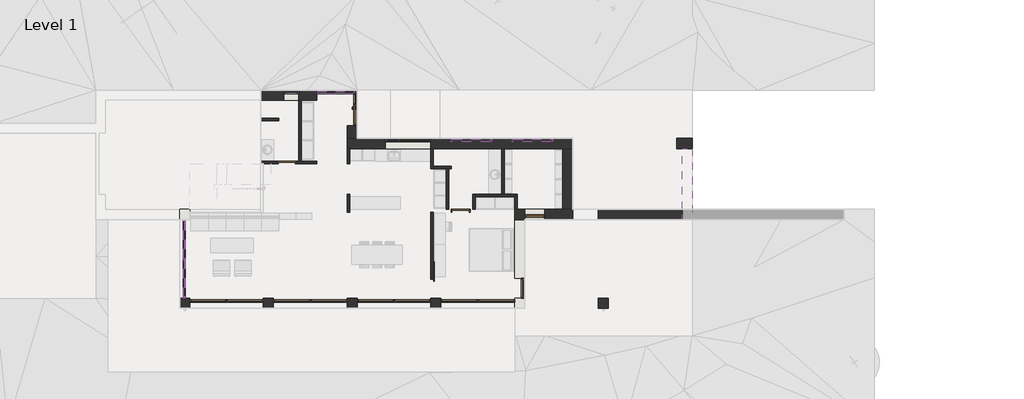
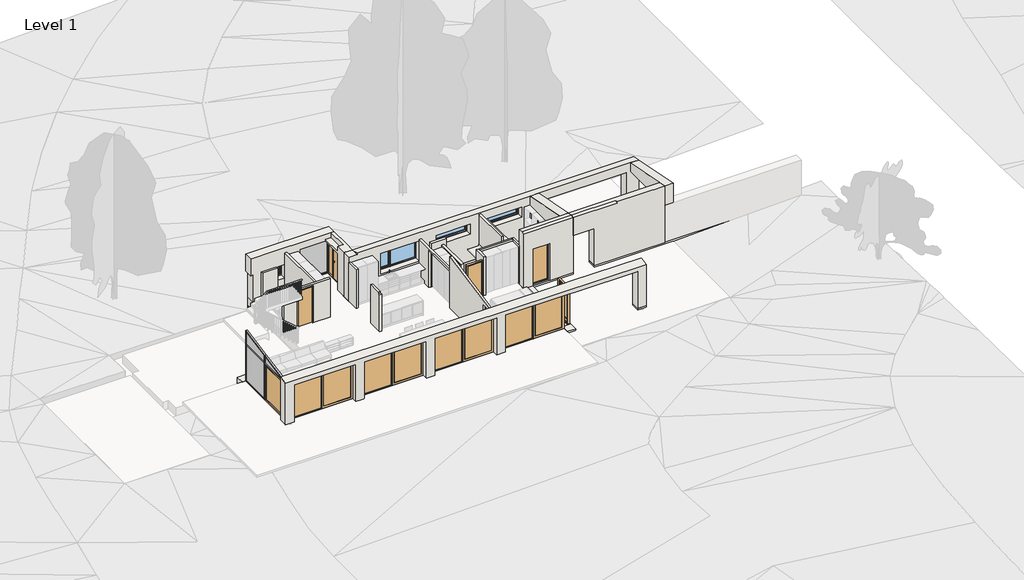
# One storey, part 1 of 3: 31 walls, 15 members, 11 doors, 4 plates, 4 windows.
"""IFC4 building model written with IfcOpenShell, lengths in millimetres."""

from ifc_helpers import new_model, si_unit, frame, origin, origin_with_axes, place, context, project, spatial, polyline, outline, extrude, faceted_brep, transform, mapped, element, save
from components import door_1522x2200_mm_245956a5, cw_ext_sliding_door_glass_cw_ext_sliding_door_glass_9f4413b3, ext_single_flush_960x2200_mm_918893a4, ext_single_flush_out_glass_960x2200_mm_15830432, ext_sliding_door_window_assembly_glass_3480_x_2200_mm_951d785b, int_single_flush_900x2200_mm_58b118df, int_single_flush_900x2200_mm_8e8544e1, int_sliding_door_on_wall_m_09x22_47a3ad10, quad_corner_mullion_exterior_115mm_0678458d, rectangular_mullion_exterior_50x100mm_229f60ba, rectangular_mullion_exterior_50x100mm_3ea8714e, rectangular_mullion_exterior_50x100mm_05d3077b, rectangular_mullion_exterior_50x100mm_196fb89d, rectangular_mullion_exterior_50x100mm_bd403bb5, rectangular_mullion_exterior_50x100mm_be0badd6, rectangular_mullion_exterior_50x100mm_2bde0a3b, rectangular_mullion_exterior_50x100mm_298fbafc, rectangular_mullion_exterior_50x100mm_1d47d4e6, rectangular_mullion_exterior_50x115mm_ee095215, rectangular_mullion_exterior_50x115mm_8ba670b4, system_panel_exterior_glass_22mm_7220da71, system_panel_exterior_glass_22mm_728c9ee8, system_panel_exterior_glass_22mm_b5bca9db, system_panel_exterior_glass_22mm_8744a841, single_light_720x800_mm_5dac0888, single_light_top_hung_1920x600_mm_50622a2d, window_assembly_individual_2160x1200_mm_64654f8e

model = new_model("IFC4")

# Units and contexts
model_context = context("Model", 3, world=origin())
ifc_project = project(units=[si_unit("LENGTHUNIT", "METRE", prefix="MILLI")], contexts=[model_context])

# Site, building, storey
site = spatial("IfcSite", under=ifc_project)
building = spatial("IfcBuilding", under=site)
storey = spatial("IfcBuildingStorey", under=building, Name="Level 1", Elevation=0.0)

# Doors
placement = place(None, origin())
door_1522x2200_mm_shape = door_1522x2200_mm_245956a5(model_context)
element("IfcDoor", 1, ObjectType="Ext. Door inw. Window Assembly : 1522x2200 mm", at=placement, inside=storey, context=model_context, shape_type="MappedRepresentation", body=[
    mapped(door_1522x2200_mm_shape, transform((12120.0, 9401.5, 0.0), x_axis=(0.0, -1.0, 0.0), y_axis=(1.0, 0.0, 0.0), z_axis=(0.0, 0.0, 1.0))),
])
cw_ext_sliding_door_glass_cw_ext_sliding_door_glass_shape = cw_ext_sliding_door_glass_cw_ext_sliding_door_glass_9f4413b3(model_context)
element("IfcDoor", 2, ObjectType="CW Ext. Sliding Door - Glass : CW Ext. Sliding Door - Glass", at=placement, inside=storey, context=model_context, shape_type="MappedRepresentation", body=[
    mapped(cw_ext_sliding_door_glass_cw_ext_sliding_door_glass_shape, transform((4140.0, 1422.5, 0.0), x_axis=(0.0, 1.0, 0.0), y_axis=(-1.0, 0.0, 0.0), z_axis=(0.0, 0.0, 1.0))),
])
ext_single_flush_960x2200_mm_shape = ext_single_flush_960x2200_mm_918893a4(model_context)
element("IfcDoor", 3, ObjectType="Ext. Single-Flush : 960x2200 mm", at=placement, inside=storey, context=model_context, shape_type="MappedRepresentation", body=[
    mapped(ext_single_flush_960x2200_mm_shape, transform((20760.0, 4440.0, 0.0), x_axis=(-1.0, 0.0, 0.0), y_axis=(0.0, -1.0, 0.0), z_axis=(0.0, 0.0, 1.0))),
])
ext_single_flush_out_glass_960x2200_mm_shape = ext_single_flush_out_glass_960x2200_mm_15830432(model_context)
element("IfcDoor", 4, ObjectType="Ext. Single-Flush out - Glass : 960x2200 mm", at=placement, inside=storey, context=model_context, shape_type="MappedRepresentation", body=[
    mapped(ext_single_flush_out_glass_960x2200_mm_shape, transform((20040.0, 960.0, 0.0), x_axis=(0.0, -1.0, 0.0), y_axis=(1.0, 0.0, 0.0), z_axis=(0.0, 0.0, 1.0))),
])
ext_sliding_door_window_assembly_glass_3480_x_2200_mm_shape = ext_sliding_door_window_assembly_glass_3480_x_2200_mm_951d785b(model_context)
element("IfcDoor", 5, ObjectType="Ext. Sliding Door Window Assembly - Glass : 3480 x 2200 mm", at=placement, inside=storey, context=model_context, shape_type="MappedRepresentation", body=[
    mapped(ext_sliding_door_window_assembly_glass_3480_x_2200_mm_shape, transform((6180.0, 240.0, 0.0), x_axis=(1.0, 0.0, 0.0), y_axis=(0.0, 1.0, 0.0), z_axis=(0.0, 0.0, 1.0))),
])
element("IfcDoor", 6, ObjectType="Ext. Sliding Door Window Assembly - Glass : 3480 x 2200 mm", at=placement, inside=storey, context=model_context, shape_type="MappedRepresentation", body=[
    mapped(ext_sliding_door_window_assembly_glass_3480_x_2200_mm_shape, transform((10140.0, 240.0, 0.0), x_axis=(1.0, 0.0, 0.0), y_axis=(0.0, 1.0, 0.0), z_axis=(0.0, 0.0, 1.0))),
])
element("IfcDoor", 7, ObjectType="Ext. Sliding Door Window Assembly - Glass : 3480 x 2200 mm", at=placement, inside=storey, context=model_context, shape_type="MappedRepresentation", body=[
    mapped(ext_sliding_door_window_assembly_glass_3480_x_2200_mm_shape, transform((14100.0, 240.0, 0.0), x_axis=(1.0, 0.0, 0.0), y_axis=(0.0, 1.0, 0.0), z_axis=(0.0, 0.0, 1.0))),
])
element("IfcDoor", 8, ObjectType="Ext. Sliding Door Window Assembly - Glass : 3480 x 2200 mm", at=placement, inside=storey, context=model_context, shape_type="MappedRepresentation", body=[
    mapped(ext_sliding_door_window_assembly_glass_3480_x_2200_mm_shape, transform((18060.0, 240.0, 0.0), x_axis=(1.0, 0.0, 0.0), y_axis=(0.0, 1.0, 0.0), z_axis=(0.0, 0.0, 1.0))),
])
int_single_flush_900x2200_mm_shape = int_single_flush_900x2200_mm_58b118df(model_context)
element("IfcDoor", 9, ObjectType="Int. Single-Flush : 900x2200 mm", at=placement, inside=storey, context=model_context, shape_type="MappedRepresentation", body=[
    mapped(int_single_flush_900x2200_mm_shape, transform((9030.0, 6900.0, 0.0), x_axis=(1.0, 0.0, 0.0), y_axis=(0.0, 1.0, 0.0), z_axis=(0.0, 0.0, 1.0))),
])
int_single_flush_900x2200_mm_2_shape = int_single_flush_900x2200_mm_8e8544e1(model_context)
element("IfcDoor", 10, ObjectType="Int. Single-Flush : 900x2200 mm", at=placement, inside=storey, context=model_context, shape_type="MappedRepresentation", body=[
    mapped(int_single_flush_900x2200_mm_2_shape, transform((17250.0, 4620.0, 0.0), x_axis=(-1.0, 0.0, 0.0), y_axis=(0.0, -1.0, 0.0), z_axis=(0.0, 0.0, 1.0))),
])
int_sliding_door_on_wall_m_09x22_shape = int_sliding_door_on_wall_m_09x22_47a3ad10(model_context)
element("IfcDoor", 11, ObjectType="Int. Sliding Door on wall : M 09x22", at=placement, inside=storey, context=model_context, shape_type="MappedRepresentation", body=[
    mapped(int_sliding_door_on_wall_m_09x22_shape, transform((15850.0, 900.0, 0.0), x_axis=(0.0, -1.0, 0.0), y_axis=(1.0, 0.0, 0.0), z_axis=(0.0, 0.0, 1.0))),
])

# Members
quad_corner_mullion_exterior_115mm_shape = quad_corner_mullion_exterior_115mm_0678458d(model_context)
element("IfcMember", 12, ObjectType="Quad Corner Mullion : Exterior - 115mm", at=placement, inside=storey, context=model_context, shape_type="MappedRepresentation", body=[
    mapped(quad_corner_mullion_exterior_115mm_shape, transform((12310.0, 10270.0, 0.0), x_axis=(1.0, 0.0, 0.0), y_axis=(0.0, -1.0, 0.0), z_axis=(0.0, 0.0, -1.0))),
])
rectangular_mullion_exterior_50x100mm_shape = rectangular_mullion_exterior_50x100mm_229f60ba(model_context)
element("IfcMember", 13, ObjectType="Rectangular Mullion : Exterior - 50x100mm", at=placement, inside=storey, context=model_context, shape_type="MappedRepresentation", body=[
    mapped(rectangular_mullion_exterior_50x100mm_shape, transform((4140.0, 2340.0, 50.0), x_axis=(0.0, 1.0, 0.0), y_axis=(1.0, 0.0, 0.0), z_axis=(0.0, 0.0, -1.0))),
])
rectangular_mullion_exterior_50x100mm_2_shape = rectangular_mullion_exterior_50x100mm_3ea8714e(model_context)
element("IfcMember", 14, ObjectType="Rectangular Mullion : Exterior - 50x100mm", at=placement, inside=storey, context=model_context, shape_type="MappedRepresentation", body=[
    mapped(rectangular_mullion_exterior_50x100mm_2_shape, transform((4140.0, 4150.0, 2200.0), x_axis=(0.0, 0.0, 1.0), y_axis=(1.0, 0.0, 0.0), z_axis=(0.0, 1.0, 0.0))),
])
element("IfcMember", 15, ObjectType="Rectangular Mullion : Exterior - 50x100mm", at=placement, inside=storey, context=model_context, shape_type="MappedRepresentation", body=[
    mapped(rectangular_mullion_exterior_50x100mm_2_shape, transform((4140.0, 2340.0, 2200.0), x_axis=(0.0, 0.0, 1.0), y_axis=(1.0, 0.0, 0.0), z_axis=(0.0, 1.0, 0.0))),
])
rectangular_mullion_exterior_50x100mm_3_shape = rectangular_mullion_exterior_50x100mm_05d3077b(model_context)
element("IfcMember", 16, ObjectType="Rectangular Mullion : Exterior - 50x100mm", at=placement, inside=storey, context=model_context, shape_type="MappedRepresentation", body=[
    mapped(rectangular_mullion_exterior_50x100mm_3_shape, transform((4140.0, 4200.0, 0.0), x_axis=(0.0, 1.0, 0.0), y_axis=(1.0, 0.0, 0.0), z_axis=(0.0, 0.0, -1.0))),
])
rectangular_mullion_exterior_50x100mm_4_shape = rectangular_mullion_exterior_50x100mm_196fb89d(model_context)
element("IfcMember", 17, ObjectType="Rectangular Mullion : Exterior - 50x100mm", at=placement, inside=storey, context=model_context, shape_type="MappedRepresentation", body=[
    mapped(rectangular_mullion_exterior_50x100mm_4_shape, transform((4140.0, 2340.0, 2225.0), x_axis=(0.0, 1.0, 0.0), y_axis=(1.0, 0.0, 0.0), z_axis=(0.0, 0.0, -1.0))),
])
rectangular_mullion_exterior_50x100mm_5_shape = rectangular_mullion_exterior_50x100mm_bd403bb5(model_context)
element("IfcMember", 18, ObjectType="Rectangular Mullion : Exterior - 50x100mm", at=placement, inside=storey, context=model_context, shape_type="MappedRepresentation", body=[
    mapped(rectangular_mullion_exterior_50x100mm_5_shape, transform((4140.0, 2340.0, 2655.674997), x_axis=(0.0, -0.19080899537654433, 0.9816271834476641), y_axis=(1.0, 0.0, 0.0), z_axis=(0.0, 0.9816271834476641, 0.19080899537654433))),
])
rectangular_mullion_exterior_50x100mm_6_shape = rectangular_mullion_exterior_50x100mm_be0badd6(model_context)
element("IfcMember", 19, ObjectType="Rectangular Mullion : Exterior - 50x100mm", at=placement, inside=storey, context=model_context, shape_type="MappedRepresentation", body=[
    mapped(rectangular_mullion_exterior_50x100mm_6_shape, transform((4140.0, 4200.0, 3017.2223719), x_axis=(0.0, -0.1908089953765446, 0.9816271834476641), y_axis=(1.0, 0.0, 0.0), z_axis=(0.0, 0.981627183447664, 0.19080899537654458))),
])
rectangular_mullion_exterior_50x100mm_7_shape = rectangular_mullion_exterior_50x100mm_2bde0a3b(model_context)
element("IfcMember", 20, ObjectType="Rectangular Mullion : Exterior - 50x100mm", at=placement, inside=storey, context=model_context, shape_type="MappedRepresentation", body=[
    mapped(rectangular_mullion_exterior_50x100mm_7_shape, transform((4140.0, 480.0, 2294.127622), x_axis=(0.0, -1.0, 0.0), y_axis=(1.0, 0.0, 0.0), z_axis=(0.0, 0.0, 1.0))),
])
rectangular_mullion_exterior_50x100mm_8_shape = rectangular_mullion_exterior_50x100mm_298fbafc(model_context)
element("IfcMember", 21, ObjectType="Rectangular Mullion : Exterior - 50x100mm", at=placement, inside=storey, context=model_context, shape_type="MappedRepresentation", body=[
    mapped(rectangular_mullion_exterior_50x100mm_8_shape, transform((4140.0, 4200.0, 2200.0), x_axis=(0.0, 1.0, 0.0), y_axis=(1.0, 0.0, 0.0), z_axis=(0.0, 0.0, -1.0))),
])
rectangular_mullion_exterior_50x100mm_9_shape = rectangular_mullion_exterior_50x100mm_1d47d4e6(model_context)
element("IfcMember", 22, ObjectType="Rectangular Mullion : Exterior - 50x100mm", at=placement, inside=storey, context=model_context, shape_type="MappedRepresentation", body=[
    mapped(rectangular_mullion_exterior_50x100mm_9_shape, transform((4140.0, 2315.0, 0.0), x_axis=(0.0, 0.0, -1.0), y_axis=(1.0, 0.0, 0.0), z_axis=(0.0, -1.0, 0.0))),
])
element("IfcMember", 23, ObjectType="Rectangular Mullion : Exterior - 50x100mm", at=placement, inside=storey, context=model_context, shape_type="MappedRepresentation", body=[
    mapped(rectangular_mullion_exterior_50x100mm_3_shape, transform((4140.0, 480.0, 2200.0), x_axis=(0.0, -1.0, 0.0), y_axis=(1.0, 0.0, 0.0), z_axis=(0.0, 0.0, 1.0))),
])
rectangular_mullion_exterior_50x115mm_shape = rectangular_mullion_exterior_50x115mm_ee095215(model_context)
element("IfcMember", 24, ObjectType="Rectangular Mullion : Exterior - 50x115mm", at=placement, inside=storey, context=model_context, shape_type="MappedRepresentation", body=[
    mapped(rectangular_mullion_exterior_50x115mm_shape, transform((10440.0, 10270.0, 2200.0), x_axis=(-1.0, 0.0, 0.0), y_axis=(0.0, -1.0, 0.0), z_axis=(0.0, 0.0, 1.0))),
])
rectangular_mullion_exterior_50x115mm_2_shape = rectangular_mullion_exterior_50x115mm_8ba670b4(model_context)
element("IfcMember", 25, ObjectType="Rectangular Mullion : Exterior - 50x115mm", at=placement, inside=storey, context=model_context, shape_type="MappedRepresentation", body=[
    mapped(rectangular_mullion_exterior_50x115mm_2_shape, transform((12202.5, 10270.0, 2200.0), x_axis=(0.0, 0.0, 1.0), y_axis=(0.0, -1.0, 0.0), z_axis=(1.0, 0.0, 0.0))),
])
element("IfcMember", 26, ObjectType="Rectangular Mullion : Exterior - 50x115mm", at=placement, inside=storey, context=model_context, shape_type="MappedRepresentation", body=[
    mapped(rectangular_mullion_exterior_50x115mm_2_shape, transform((10490.0, 10270.0, 0.0), x_axis=(0.0, 0.0, -1.0), y_axis=(0.0, -1.0, 0.0), z_axis=(-1.0, 0.0, 0.0))),
])

# Plates
system_panel_exterior_glass_22mm_shape = system_panel_exterior_glass_22mm_7220da71(model_context)
element("IfcPlate", 27, ObjectType="System Panel : Exterior - Glass 22mm", at=placement, inside=storey, context=model_context, shape_type="MappedRepresentation", body=[
    mapped(system_panel_exterior_glass_22mm_shape, transform((4140.0, 3257.5, 50.0), x_axis=(0.0, 1.0, 0.0), y_axis=(-1.0, 0.0, 0.0), z_axis=(0.0, 0.0, 1.0))),
])
system_panel_exterior_glass_22mm_2_shape = system_panel_exterior_glass_22mm_728c9ee8(model_context)
element("IfcPlate", 28, ObjectType="System Panel : Exterior - Glass 22mm", at=placement, inside=storey, context=model_context, shape_type="MappedRepresentation", body=[
    mapped(system_panel_exterior_glass_22mm_2_shape, transform((4140.0, 1422.5, 2225.0), x_axis=(0.0, 1.0, 0.0), y_axis=(-1.0, 0.0, 0.0), z_axis=(0.0, 0.0, 1.0))),
])
system_panel_exterior_glass_22mm_3_shape = system_panel_exterior_glass_22mm_b5bca9db(model_context)
element("IfcPlate", 29, ObjectType="System Panel : Exterior - Glass 22mm", at=placement, inside=storey, context=model_context, shape_type="MappedRepresentation", body=[
    mapped(system_panel_exterior_glass_22mm_3_shape, transform((4140.0, 3257.5, 2225.0), x_axis=(0.0, 1.0, 0.0), y_axis=(-1.0, 0.0, 0.0), z_axis=(0.0, 0.0, 1.0))),
])
system_panel_exterior_glass_22mm_4_shape = system_panel_exterior_glass_22mm_8744a841(model_context)
element("IfcPlate", 30, ObjectType="System Panel : Exterior - Glass 22mm", at=placement, inside=storey, context=model_context, shape_type="MappedRepresentation", body=[
    mapped(system_panel_exterior_glass_22mm_4_shape, transform((11346.25, 10270.0, 50.0), x_axis=(1.0, 0.0, 0.0), y_axis=(0.0, 1.0, 0.0), z_axis=(0.0, 0.0, 1.0))),
])

# Walls
element("IfcWall", 31, ObjectType="Foundation - 480mm Concrete", at=placement, inside=storey, context=model_context, shape_type="Brep", body=[
    faceted_brep([(7800.0, 9840.0, -1000.0), (11880.0, 9840.0, -1000.0), (12360.0, 9840.0, -1000.0), (12360.0, 9840.0, 0.0), (12200.0, 9840.0, 0.0), (12200.0, 9840.0, -500.0), (11880.0, 9840.0, -500.0), (10440.0, 9840.0, -500.0), (10440.0, 9840.0, 0.0), (7800.0, 9840.0, 0.0), (7800.0, 9840.0, -500.0), (7800.0, 9840.0, -600.0), (12360.0, 10320.0, -1000.0), (7800.0, 10320.0, -1000.0), (7800.0, 10320.0, -600.0), (7800.0, 10320.0, 0.0), (12360.0, 10320.0, 0.0), (12360.0, 10320.0, -200.0), (10440.0, 10162.5, 0.0), (12200.0, 10162.5, 0.0), (10440.0, 10162.5, -500.0), (12200.0, 10162.5, -500.0)], [[[0, 1, 2, 3, 4, 5, 6, 7, 8, 9, 10, 11]], [[12, 13, 14, 15, 16, 17]], [[2, 1, 0, 13, 12]], [[16, 15, 9, 8, 18, 19, 4, 3]], [[15, 14, 13, 0, 11, 10, 9]], [[3, 2, 12, 17, 16]], [[20, 7, 6, 5, 21]], [[19, 21, 5, 4]], [[7, 20, 18, 8]], [[20, 21, 19, 18]]]),
])
element("IfcWall", 32, ObjectType="Foundation - 480mm Concrete", at=placement, inside=storey, context=model_context, shape_type="Brep", body=[
    faceted_brep([(11880.0, 9840.0, -1000.0), (11880.0, 7560.0, -1000.0), (11880.0, 7560.0, -500.0), (11880.0, 7560.0, 0.0), (11880.0, 8640.5, 0.0), (11880.0, 8640.5, -500.0), (11880.0, 9840.0, -500.0), (12360.0, 7560.0, -1000.0), (12360.0, 8040.0, -1000.0), (12360.0, 9840.0, -1000.0), (12360.0, 9840.0, 0.0), (12360.0, 8040.0, 0.0), (12360.0, 7560.0, 0.0), (12360.0, 7560.0, -500.0), (12200.0, 9840.0, 0.0), (12200.0, 8640.5, 0.0), (12200.0, 9840.0, -500.0), (12200.0, 8640.5, -500.0)], [[[0, 1, 2, 3, 4, 5, 6]], [[7, 8, 9, 10, 11, 12, 13]], [[1, 0, 9, 8, 7]], [[12, 11, 10, 14, 15, 4, 3]], [[10, 9, 0, 6, 16, 14]], [[1, 7, 13, 12, 3, 2]], [[5, 17, 16, 6]], [[17, 15, 14, 16]], [[17, 5, 4, 15]]]),
])
element("IfcWall", 33, ObjectType="Foundation - 480mm Concrete", at=placement, inside=storey, context=model_context, shape_type="Brep", body=[
    faceted_brep([(12360.0, 7560.0, -1000.0), (22080.0, 7560.0, -1000.0), (22560.0, 7560.0, -1000.0), (22560.0, 7560.0, 0.0), (22080.0, 7560.0, 0.0), (12360.0, 7560.0, 0.0), (12360.0, 8040.0, -1000.0), (12360.0, 8040.0, 0.0), (22560.0, 8040.0, 0.0), (22560.0, 8040.0, -1000.0)], [[[0, 1, 2, 3, 4, 5]], [[6, 7, 8, 9]], [[2, 1, 0, 6, 9]], [[5, 4, 3, 8, 7]], [[0, 5, 7, 6]], [[3, 2, 9, 8]]]),
])
element("IfcWall", 34, ObjectType="Foundation - 480mm Concrete", at=placement, inside=storey, context=model_context, shape_type="Brep", body=[
    faceted_brep([(20280.0, 480.0, -1000.0), (19800.0, 480.0, -1000.0), (4440.0, 480.0, -1000.0), (3960.0, 480.0, -1000.0), (3960.0, 480.0, -120.0), (4140.0, 480.0, -120.0), (4140.0, 480.0, 0.0), (4240.0, 480.0, 0.0), (4240.0, 480.0, -500.0), (4440.0, 480.0, -500.0), (19800.0, 480.0, -500.0), (19800.0, 480.0, 0.0), (20115.0, 480.0, 0.0), (20280.0, 480.0, 0.0), (3960.0, 0.0, -1000.0), (20280.0, 0.0, -1000.0), (20280.0, 0.0, 0.0), (19800.0, 0.0, 0.0), (19800.0, 0.0, -120.0), (3960.0, 0.0, -120.0), (19800.0, 415.0, 0.0), (4240.0, 415.0, 0.0), (4140.0, 300.0, 0.0), (19800.0, 300.0, 0.0), (19800.0, 300.0, -120.0), (4140.0, 300.0, -120.0), (19800.0, 415.0, -500.0), (4240.0, 415.0, -500.0)], [[[0, 1, 2, 3, 4, 5, 6, 7, 8, 9, 10, 11, 12, 13]], [[14, 15, 16, 17, 18, 19]], [[3, 2, 1, 0, 15, 14]], [[16, 13, 12, 11, 20, 21, 7, 6, 22, 23, 17]], [[0, 13, 16, 15]], [[24, 25, 5, 4, 19, 18]], [[25, 22, 6, 5]], [[26, 10, 9, 8, 27]], [[26, 27, 21, 20]], [[21, 27, 8, 7]], [[10, 26, 20, 11]], [[25, 24, 23, 22]], [[23, 24, 18, 17]], [[3, 14, 19, 4]]]),
])
element("IfcWall", 35, ObjectType="Foundation - 480mm Concrete", at=placement, inside=storey, context=model_context, shape_type="Brep", body=[
    faceted_brep([(4440.0, 480.0, -1000.0), (4440.0, 4680.0, -1000.0), (4440.0, 4680.0, 0.0), (4440.0, 4560.0, 0.0), (4440.0, 4200.0, 0.0), (4440.0, 4200.0, -500.0), (4440.0, 480.0, -500.0), (3960.0, 4680.0, -1000.0), (3960.0, 480.0, -1000.0), (3960.0, 480.0, -120.0), (3960.0, 4200.0, -120.0), (3960.0, 4200.0, 0.0), (3960.0, 4680.0, 0.0), (3960.0, 4680.0, -600.0), (4140.0, 4200.0, 0.0), (4140.0, 480.0, 0.0), (4240.0, 480.0, 0.0), (4240.0, 4200.0, 0.0), (4240.0, 4200.0, -500.0), (4240.0, 480.0, -500.0), (4140.0, 480.0, -120.0), (4140.0, 4200.0, -120.0)], [[[0, 1, 2, 3, 4, 5, 6]], [[7, 8, 9, 10, 11, 12, 13]], [[1, 0, 8, 7]], [[2, 12, 11, 14, 15, 16, 17, 4, 3]], [[5, 18, 19, 6]], [[18, 17, 16, 19]], [[18, 5, 4, 17]], [[20, 21, 10, 9]], [[21, 14, 11, 10]], [[14, 21, 20, 15]], [[8, 0, 6, 19, 16, 15, 20, 9]], [[1, 7, 13, 12, 2]]]),
])
element("IfcWall", 36, ObjectType="Foundation - 480mm Concrete", at=placement, inside=storey, context=model_context, shape_type="SweptSolid", body=[
    extrude(outline(polyline([(-1000.0, 23760.0), (-1000.0, 35400.0), (0.0, 35400.0), (0.0, 23760.0), (-100.0, 23760.0), (-100.0, 28196.2008084), (-200.0, 28196.2008084), (-200.0, 23760.0), (-1000.0, 23760.0)])), frame((0.0, 4200.0, 0.0), z_axis=(0.0, 1.0, 0.0), x_axis=(0.0, 0.0, 1.0)), (0.0, 0.0, 1.0), 480.0),
])
element("IfcWall", 37, ObjectType="Foundation - 480mm Concrete", at=placement, inside=storey, context=model_context, shape_type="Brep", body=[
    faceted_brep([(19800.0, 4200.0, -1000.0), (19800.0, 480.0, -1000.0), (19800.0, 480.0, -500.0), (19800.0, 1440.0, -500.0), (19800.0, 1440.0, 0.0), (19800.0, 4200.0, 0.0), (19800.0, 4200.0, -500.0), (20280.0, 480.0, -1000.0), (20280.0, 4200.0, -1000.0), (20280.0, 4200.0, 0.0), (20280.0, 480.0, 0.0), (20115.0, 1440.0, 0.0), (20115.0, 480.0, 0.0), (20115.0, 480.0, -500.0), (20115.0, 1440.0, -500.0)], [[[0, 1, 2, 3, 4, 5, 6]], [[7, 8, 9, 10]], [[1, 0, 8, 7]], [[10, 9, 5, 4, 11, 12]], [[5, 9, 8, 0, 6]], [[1, 7, 10, 12, 13, 2]], [[14, 3, 2, 13]], [[3, 14, 11, 4]], [[14, 13, 12, 11]]]),
])
element("IfcWall", 38, ObjectType="Foundation - 480mm Concrete", at=placement, inside=storey, context=model_context, shape_type="Brep", body=[
    faceted_brep([(22080.0, 7560.0, -1000.0), (22080.0, 4680.0, -1000.0), (22080.0, 4680.0, 0.0), (22080.0, 7560.0, 0.0), (22560.0, 7560.0, -1000.0), (22560.0, 7560.0, 0.0), (22560.0, 4680.0, 0.0), (22560.0, 4680.0, -100.0), (22560.0, 4680.0, -200.0), (22560.0, 4680.0, -1000.0)], [[[0, 1, 2, 3]], [[4, 5, 6, 7, 8, 9]], [[1, 0, 4, 9]], [[3, 2, 6, 5]], [[0, 3, 5, 4]], [[2, 1, 9, 8, 7, 6]]]),
])
element("IfcWall", 39, ObjectType="Foundation - 480mm Concrete", at=placement, inside=storey, context=model_context, shape_type="SweptSolid", body=[
    extrude(outline(polyline([(-1000.0, 27480.0), (-1000.0, 28200.0), (0.0, 28200.0), (0.0, 27480.0), (-100.0, 27480.0), (-100.0, 28196.2008084), (-200.0, 28196.2008084), (-200.0, 27480.0), (-1000.0, 27480.0)])), frame((0.0, 7560.0, 0.0), z_axis=(0.0, 1.0, 0.0), x_axis=(0.0, 0.0, 1.0)), (0.0, 0.0, 1.0), 480.0),
])
element("IfcWall", 40, ObjectType="Foundation - 480mm Concrete", at=placement, inside=storey, context=model_context, shape_type="SweptSolid", body=[
    extrude(outline(polyline([(23760.0, 480.0), (24240.0, 480.0), (24240.0, 0.0), (23760.0, 0.0), (23760.0, 480.0)])), frame((0.0, 0.0, -1000.0), z_axis=(0.0, 0.0, 1.0), x_axis=(1.0, 0.0, 0.0)), (0.0, 0.0, 1.0), 800.0),
    extrude(outline(polyline([(23760.0, 480.0), (24240.0, 480.0), (24240.0, 0.0), (23760.0, 0.0), (23760.0, 480.0)])), frame((0.0, 0.0, -100.0), z_axis=(0.0, 0.0, 1.0), x_axis=(1.0, 0.0, 0.0)), (0.0, 0.0, 1.0), 100.0),
])
element("IfcWall", 41, ObjectType="Foundation - 480mm Concrete", at=placement, inside=storey, context=model_context, shape_type="Brep", body=[
    faceted_brep([(22560.0, 4680.0, -1000.0), (22080.0, 4680.0, -1000.0), (19800.0, 4680.0, -1000.0), (19800.0, 4680.0, 0.0), (22080.0, 4680.0, 0.0), (22560.0, 4680.0, 0.0), (22560.0, 4680.0, -100.0), (22556.2008084, 4680.0, -100.0), (22556.2008084, 4680.0, -200.0), (22560.0, 4680.0, -200.0), (19800.0, 4200.0, -1000.0), (20280.0, 4200.0, -1000.0), (22560.0, 4200.0, -1000.0), (22560.0, 4200.0, -200.0), (22556.2008084, 4200.0, -200.0), (22556.2008084, 4200.0, -100.0), (22560.0, 4200.0, -100.0), (22560.0, 4200.0, 0.0), (20280.0, 4200.0, 0.0), (19800.0, 4200.0, 0.0)], [[[0, 1, 2, 3, 4, 5, 6, 7, 8, 9]], [[10, 11, 12, 13, 14, 15, 16, 17, 18, 19]], [[2, 1, 0, 12, 11, 10]], [[5, 4, 3, 19, 18, 17]], [[3, 2, 10, 19]], [[8, 14, 13, 9]], [[14, 8, 7, 15]], [[15, 7, 6, 16]], [[5, 17, 16, 6]], [[12, 0, 9, 13]]]),
])
element("IfcWall", 42, ObjectType="Generic - 120mm (Interior)", at=placement, inside=storey, context=model_context, shape_type="Brep", body=[
    faceted_brep([(9720.0, 6960.0, 0.0), (9720.0, 9840.0, 0.0), (9720.0, 9840.0, 2300.0), (9720.0, 6960.0, 2300.0), (9600.0, 9840.0, 0.0), (9600.0, 6960.0, 0.0), (9600.0, 6960.0, 2300.0), (9600.0, 9840.0, 2300.0), (9600.0, 9840.0, 1600.0), (9600.0, 9840.0, 800.0)], [[[0, 1, 2, 3]], [[4, 5, 6, 7, 8, 9]], [[1, 0, 5, 4]], [[1, 4, 9, 8, 7, 2]], [[5, 0, 3, 6]], [[3, 2, 7, 6]]]),
])
element("IfcWall", 43, ObjectType="Generic - 120mm (Interior)", at=placement, inside=storey, context=model_context, shape_type="Brep", body=[
    faceted_brep([(15960.0, 7560.0, 0.0), (15960.0, 7560.0, 2300.0), (15960.0, 4680.0, 2300.0), (15960.0, 4560.0, 2300.0), (15960.0, 4560.0, 3087.1992832), (15960.0, 480.0, 2294.127622), (15960.0, 480.0, 2200.0), (15960.0, 1380.0, 2200.0), (15960.0, 1380.0, 0.0), (15960.0, 4560.0, 0.0), (15960.0, 4560.0, 2200.0), (15960.0, 4680.0, 2200.0), (15960.0, 6600.0, 2200.0), (15960.0, 6600.0, 0.0), (15960.0, 6720.0, 0.0), (15840.0, 7560.0, 2300.0), (15840.0, 7560.0, 2200.0), (15840.0, 7560.0, 1000.0), (15840.0, 7560.0, 0.0), (15840.0, 6600.0, 0.0), (15840.0, 6600.0, 2200.0), (15840.0, 4680.0, 2200.0), (15840.0, 4560.0, 2200.0), (15840.0, 4560.0, 0.0), (15840.0, 1380.0, 0.0), (15840.0, 1380.0, 2200.0), (15840.0, 480.0, 2200.0), (15840.0, 480.0, 2294.127622), (15840.0, 4560.0, 3087.1992832), (15840.0, 4560.0, 2300.0), (15840.0, 4680.0, 2300.0)], [[[0, 1, 2, 3, 4, 5, 6, 7, 8, 9, 10, 11, 12, 13, 14]], [[15, 16, 17, 18, 19, 20, 21, 22, 23, 24, 25, 26, 27, 28, 29, 30]], [[18, 0, 14, 13, 19]], [[23, 9, 8, 24]], [[1, 0, 18, 17, 16, 15]], [[25, 7, 6, 26]], [[7, 25, 24, 8]], [[12, 11, 10, 22, 21, 20]], [[12, 20, 19, 13]], [[9, 23, 22, 10]], [[3, 29, 28, 4]], [[5, 4, 28, 27]], [[29, 3, 2, 30]], [[2, 1, 15, 30]], [[5, 27, 26, 6]]]),
])
element("IfcWall", 44, ObjectType="Generic - 120mm (Interior)", at=placement, inside=storey, context=model_context, shape_type="Brep", body=[
    faceted_brep([(19800.0, 5400.0, 0.0), (19800.0, 5280.0, 0.0), (19800.0, 4680.0, 0.0), (19800.0, 4680.0, 2300.0), (19800.0, 5280.0, 2300.0), (19800.0, 5400.0, 2300.0), (19920.0, 5400.0, 0.0), (19920.0, 5400.0, 2300.0), (19920.0, 4680.0, 2300.0), (19920.0, 4680.0, 0.0)], [[[0, 1, 2, 3, 4, 5]], [[6, 7, 8, 9]], [[2, 1, 0, 6, 9]], [[3, 2, 9, 8]], [[0, 5, 7, 6]], [[5, 4, 3, 8, 7]]]),
])
element("IfcWall", 45, ObjectType="Generic - 120mm (Interior)", at=placement, inside=storey, context=model_context, shape_type="SweptSolid", body=[
    extrude(outline(polyline([(19320.0, 7560.0), (19320.0, 5400.0), (19200.0, 5400.0), (19200.0, 7560.0), (19320.0, 7560.0)])), origin_with_axes(), (0.0, 0.0, 1.0), 2600.0),
])
element("IfcWall", 46, ObjectType="Generic - 120mm (Interior)", at=placement, inside=storey, context=model_context, shape_type="SweptSolid", body=[
    extrude(outline(polyline([(8640.0, 8880.0), (7800.0, 8880.0), (7800.0, 9000.0), (8640.0, 9000.0), (8640.0, 8880.0)])), origin_with_axes(), (0.0, 0.0, 1.0), 2300.0),
])
element("IfcWall", 47, ObjectType="Generic - 120mm (Interior)", at=placement, inside=storey, context=model_context, shape_type="SweptSolid", body=[
    extrude(outline(polyline([(11880.0, 6840.0), (11880.0, 7560.0), (12000.0, 7560.0), (12000.0, 6840.0), (11880.0, 6840.0)])), origin_with_axes(), (0.0, 0.0, 1.0), 2300.0),
])
element("IfcWall", 48, ObjectType="Generic - 120mm (Interior)", at=placement, inside=storey, context=model_context, shape_type="Brep", body=[
    faceted_brep([(10440.0, 6840.0, 0.0), (10440.0, 6840.0, 2300.0), (8280.0, 6840.0, 2300.0), (7800.0, 6840.0, 2300.0), (7800.0, 6840.0, 1700.0), (7800.0, 6840.0, 0.0), (8580.0, 6840.0, 0.0), (8580.0, 6840.0, 2200.0), (9480.0, 6840.0, 2200.0), (9480.0, 6840.0, 0.0), (10440.0, 6960.0, 2300.0), (10440.0, 6960.0, 0.0), (9720.0, 6960.0, 0.0), (9600.0, 6960.0, 0.0), (9480.0, 6960.0, 0.0), (9480.0, 6960.0, 2200.0), (8580.0, 6960.0, 2200.0), (8580.0, 6960.0, 0.0), (7800.0, 6960.0, 0.0), (7800.0, 6960.0, 1700.0), (7800.0, 6960.0, 2300.0), (9600.0, 6960.0, 2300.0), (9720.0, 6960.0, 2300.0)], [[[0, 1, 2, 3, 4, 5, 6, 7, 8, 9]], [[10, 11, 12, 13, 14, 15, 16, 17, 18, 19, 20, 21, 22]], [[11, 0, 9, 14, 13, 12]], [[5, 18, 17, 6]], [[1, 0, 11, 10]], [[8, 15, 14, 9]], [[15, 8, 7, 16]], [[16, 7, 6, 17]], [[5, 4, 3, 20, 19, 18]], [[10, 22, 21, 20, 3, 2, 1]]]),
])
element("IfcWall", 49, ObjectType="Generic - 120mm (Interior)", at=placement, inside=storey, context=model_context, shape_type="Brep", body=[
    faceted_brep([(12000.0, 4560.0, 0.0), (12000.0, 4680.0, 0.0), (12000.0, 5400.0, 0.0), (12000.0, 5400.0, 2300.0), (12000.0, 4680.0, 2300.0), (12000.0, 4680.0, 2200.0), (12000.0, 4560.0, 2200.0), (11880.0, 4560.0, 0.0), (11880.0, 4560.0, 2200.0), (11880.0, 4680.0, 2200.0), (11880.0, 4680.0, 2300.0), (11880.0, 5400.0, 2300.0), (11880.0, 5400.0, 0.0)], [[[0, 1, 2, 3, 4, 5, 6]], [[7, 8, 9, 10, 11, 12]], [[2, 1, 0, 7, 12]], [[3, 2, 12, 11]], [[5, 9, 8, 6]], [[0, 6, 8, 7]], [[5, 4, 10, 9]], [[4, 3, 11, 10]]]),
])
element("IfcWall", 50, ObjectType="Generic - 120mm (Interior)", at=placement, inside=storey, context=model_context, shape_type="Brep", body=[
    faceted_brep([(17940.0, 5280.0, 0.0), (19800.0, 5280.0, 0.0), (19800.0, 5280.0, 2300.0), (17940.0, 5280.0, 2300.0), (17940.0, 5400.0, 0.0), (17940.0, 5400.0, 2300.0), (19800.0, 5400.0, 2300.0), (19800.0, 5400.0, 0.0), (19320.0, 5400.0, 0.0), (19200.0, 5400.0, 0.0)], [[[0, 1, 2, 3]], [[4, 5, 6, 7, 8, 9]], [[1, 0, 4, 9, 8, 7]], [[0, 3, 5, 4]], [[2, 1, 7, 6]], [[3, 2, 6, 5]]]),
])
element("IfcWall", 51, ObjectType="Generic - 120mm (Interior)", at=placement, inside=storey, context=model_context, shape_type="Brep", body=[
    faceted_brep([(17940.0, 4680.0, 0.0), (17940.0, 5280.0, 0.0), (17940.0, 5400.0, 0.0), (17940.0, 5400.0, 2300.0), (17940.0, 5280.0, 2300.0), (17940.0, 4680.0, 2300.0), (17820.0, 4680.0, 0.0), (17820.0, 4680.0, 2300.0), (17820.0, 5400.0, 2300.0), (17820.0, 5400.0, 0.0)], [[[0, 1, 2, 3, 4, 5]], [[6, 7, 8, 9]], [[2, 1, 0, 6, 9]], [[3, 2, 9, 8]], [[0, 5, 7, 6]], [[5, 4, 3, 8, 7]]]),
])
element("IfcWall", 52, ObjectType="Generic - 120mm (Interior)", at=placement, inside=storey, context=model_context, shape_type="Brep", body=[
    faceted_brep([(15960.0, 6600.0, 0.0), (16560.0, 6600.0, 0.0), (16680.0, 6600.0, 0.0), (16800.0, 6600.0, 0.0), (16800.0, 6600.0, 2600.0), (15960.0, 6600.0, 2600.0), (15960.0, 6600.0, 2200.0), (15960.0, 6720.0, 0.0), (15960.0, 6720.0, 2600.0), (16800.0, 6720.0, 2600.0), (16800.0, 6720.0, 0.0)], [[[0, 1, 2, 3, 4, 5, 6]], [[7, 8, 9, 10]], [[3, 2, 1, 0, 7, 10]], [[4, 3, 10, 9]], [[5, 4, 9, 8]], [[0, 6, 5, 8, 7]]]),
])
element("IfcWall", 53, ObjectType="Generic - 120mm (Interior)", at=placement, inside=storey, context=model_context, shape_type="SweptSolid", body=[
    extrude(outline(polyline([(16680.0, 6600.0), (16680.0, 4680.0), (16560.0, 4680.0), (16560.0, 6600.0), (16680.0, 6600.0)])), origin_with_axes(), (0.0, 0.0, 1.0), 2300.0),
])
element("IfcWall", 54, ObjectType="Generic - 480mm (Exterior)", at=placement, inside=storey, context=model_context, shape_type="Brep", body=[
    faceted_brep([(11880.0, 8640.5, 0.0), (11880.0, 8040.0, 0.0), (11880.0, 8040.0, 2300.0), (11880.0, 8040.0, 2600.0), (11880.0, 8640.0, 2600.0), (11880.0, 8640.0, 2300.0), (11880.0, 9840.0, 2300.0), (11880.0, 9840.0, 2200.0), (11880.0, 8640.5, 2200.0), (12360.0, 9840.0, 2600.0), (12360.0, 8640.0, 2600.0), (12360.0, 8040.0, 2600.0), (12360.0, 8040.0, 0.0), (12360.0, 8640.5, 0.0), (12360.0, 8640.5, 2200.0), (12360.0, 9840.0, 2200.0), (12195.0, 9840.0, 2300.0), (12195.0, 9840.0, 2600.0), (12195.0, 8640.0, 2600.0), (12195.0, 8640.0, 2300.0)], [[[0, 1, 2, 3, 4, 5, 6, 7, 8]], [[9, 10, 11, 12, 13, 14, 15]], [[9, 15, 7, 6, 16, 17]], [[12, 1, 0, 13]], [[11, 10, 9, 17, 18, 4, 3]], [[1, 12, 11, 3, 2]], [[19, 16, 6, 5]], [[16, 19, 18, 17]], [[19, 5, 4, 18]], [[8, 14, 13, 0]], [[14, 8, 7, 15]]]),
])
element("IfcWall", 55, ObjectType="Generic - 480mm (Exterior)", at=placement, inside=storey, context=model_context, shape_type="Brep", body=[
    faceted_brep([(22080.0, 7560.0, 2693.3025484), (22080.0, 7560.0, 0.0), (22080.0, 4680.0, 0.0), (22080.0, 4680.0, 3253.1178387), (22560.0, 7560.0, 0.0), (22560.0, 7560.0, 2200.0), (22560.0, 7560.0, 2693.3025484), (22560.0, 4680.0, 3253.1178387), (22560.0, 4680.0, 2200.0), (22560.0, 4680.0, 0.0)], [[[0, 1, 2, 3]], [[4, 5, 6, 7, 8, 9]], [[2, 1, 4, 9]], [[0, 6, 5, 4, 1]], [[3, 2, 9, 8, 7]], [[0, 3, 7, 6]]]),
])
element("IfcWall", 56, ObjectType="Generic - 480mm (Exterior)", at=placement, inside=storey, context=model_context, shape_type="Brep", body=[
    faceted_brep([(22560.0, 7560.0, 2200.0), (27480.0, 7560.0, 2200.0), (27480.0, 7560.0, 0.0), (28200.0, 7560.0, 0.0), (28200.0, 7560.0, 2200.0), (28200.0, 7560.0, 2693.3025484), (27720.0, 7560.0, 2693.3025484), (22560.0, 7560.0, 2693.3025484), (22080.0, 7560.0, 2693.3025484), (12360.0, 7560.0, 2693.3025484), (12360.0, 7560.0, 2600.0), (11880.0, 7560.0, 2600.0), (11880.0, 7560.0, 2300.0), (11880.0, 7560.0, 0.0), (12000.0, 7560.0, 0.0), (15840.0, 7560.0, 0.0), (15960.0, 7560.0, 0.0), (19200.0, 7560.0, 0.0), (19320.0, 7560.0, 0.0), (22080.0, 7560.0, 0.0), (22560.0, 7560.0, 0.0), (16800.0, 7560.0, 1600.0), (16800.0, 7560.0, 2200.0), (18720.0, 7560.0, 2200.0), (18720.0, 7560.0, 1600.0), (19680.0, 7560.0, 1600.0), (19680.0, 7560.0, 2200.0), (21600.0, 7560.0, 2200.0), (21600.0, 7560.0, 1600.0), (15840.0, 7560.0, 2200.0), (15840.0, 7560.0, 1000.0), (13680.0, 7560.0, 1000.0), (13680.0, 7560.0, 2200.0), (27480.0, 8040.0, 2200.0), (22560.0, 8040.0, 2200.0), (22560.0, 8040.0, 0.0), (12360.0, 8040.0, 0.0), (11880.0, 8040.0, 0.0), (11880.0, 8040.0, 2600.0), (12360.0, 8040.0, 2600.0), (28200.0, 8040.0, 2600.0), (28200.0, 8040.0, 0.0), (27480.0, 8040.0, 0.0), (15840.0, 8040.0, 1000.0), (15840.0, 8040.0, 2200.0), (13680.0, 8040.0, 2200.0), (13680.0, 8040.0, 1000.0), (16800.0, 8040.0, 2200.0), (16800.0, 8040.0, 1600.0), (18720.0, 8040.0, 1600.0), (18720.0, 8040.0, 2200.0), (19680.0, 8040.0, 2200.0), (19680.0, 8040.0, 1600.0), (21600.0, 8040.0, 1600.0), (21600.0, 8040.0, 2200.0)], [[[0, 1, 2, 3, 4, 5, 6, 7, 8, 9, 10, 11, 12, 13, 14, 15, 16, 17, 18, 19, 20], [21, 22, 23, 24], [25, 26, 27, 28], [29, 30, 31, 32]], [[33, 34, 35, 36, 37, 38, 39, 40, 41, 42], [43, 44, 45, 46], [47, 48, 49, 50], [51, 52, 53, 54]], [[1, 0, 34, 33]], [[2, 1, 33, 42]], [[3, 2, 42, 41]], [[20, 19, 18, 17, 16, 15, 14, 13, 37, 36, 35]], [[0, 20, 35, 34]], [[43, 30, 29, 44]], [[44, 29, 32, 45]], [[45, 32, 31, 46]], [[30, 43, 46, 31]], [[21, 48, 47, 22]], [[22, 47, 50, 23]], [[23, 50, 49, 24]], [[48, 21, 24, 49]], [[25, 52, 51, 26]], [[26, 51, 54, 27]], [[27, 54, 53, 28]], [[52, 25, 28, 53]], [[5, 4, 3, 41, 40]], [[13, 12, 11, 38, 37]], [[38, 11, 10, 39]], [[39, 10, 9]], [[9, 8, 7, 6, 5, 40, 39]]]),
])
element("IfcWall", 57, ObjectType="Generic - 480mm (Exterior)", at=placement, inside=storey, context=model_context, shape_type="Brep", body=[
    faceted_brep([(27720.0, 7560.0, 2200.0), (27720.0, 4680.0, 2200.0), (27720.0, 4200.0, 2200.0), (27720.0, 4200.0, 3346.4203871), (27720.0, 4680.0, 3253.1178387), (27720.0, 7560.0, 2693.3025484), (28200.0, 7560.0, 2200.0), (28200.0, 7560.0, 2693.3025484), (28200.0, 4200.0, 3346.4203871), (28200.0, 4200.0, 2200.0)], [[[0, 1, 2, 3, 4, 5]], [[6, 7, 8, 9]], [[2, 1, 0, 6, 9]], [[0, 5, 7, 6]], [[3, 2, 9, 8]], [[5, 4, 3, 8, 7]]]),
])
element("IfcWall", 58, ObjectType="Generic - 480mm (Exterior)", at=placement, inside=storey, context=model_context, shape_type="Brep", body=[
    faceted_brep([(20280.0, 4200.0, 0.0), (20280.0, 4200.0, 2200.0), (21240.0, 4200.0, 2200.0), (21240.0, 4200.0, 0.0), (22560.0, 4200.0, 0.0), (22560.0, 4200.0, 2200.0), (22560.0, 4200.0, 3271.9015457), (20280.0, 4200.0, 3271.9015457), (19800.0, 4200.0, 3271.9015457), (19800.0, 4200.0, 0.0), (20280.0, 4680.0, 2200.0), (20280.0, 4680.0, 0.0), (19920.0, 4680.0, 0.0), (19800.0, 4680.0, 0.0), (19800.0, 4680.0, 2300.0), (19800.0, 4680.0, 2400.0), (19800.0, 4680.0, 3253.1178387), (22080.0, 4680.0, 3253.1178387), (22560.0, 4680.0, 3253.1178387), (22560.0, 4680.0, 2200.0), (22560.0, 4680.0, 0.0), (22080.0, 4680.0, 0.0), (21240.0, 4680.0, 0.0), (21240.0, 4680.0, 2200.0), (22560.0, 4391.6831024, 3309.1609664), (19800.0, 4391.6831024, 3309.1609664)], [[[0, 1, 2, 3, 4, 5, 6, 7, 8, 9]], [[10, 11, 12, 13, 14, 15, 16, 17, 18, 19, 20, 21, 22, 23]], [[11, 0, 9, 13, 12]], [[3, 22, 21, 20, 4]], [[19, 18, 24, 6, 5]], [[10, 1, 0, 11]], [[1, 10, 23, 2]], [[2, 23, 22, 3]], [[5, 4, 20, 19]], [[18, 17, 16, 25, 24]], [[8, 7, 6, 24, 25]], [[16, 15, 14, 13, 9, 8, 25]]]),
])
element("IfcWall", 59, ObjectType="Generic - 480mm (Exterior)", at=placement, inside=storey, context=model_context, shape_type="Brep", body=[
    faceted_brep([(12360.0, 9840.0, 2600.0), (12195.0, 9840.0, 2600.0), (7680.0, 9840.0, 2600.0), (7680.0, 9840.0, 1600.0), (7800.0, 9840.0, 1600.0), (7800.0, 9840.0, 0.0), (9600.0, 9840.0, 0.0), (9720.0, 9840.0, 0.0), (10440.0, 9840.0, 0.0), (10440.0, 9840.0, 2200.0), (11880.0, 9840.0, 2200.0), (12310.0, 9840.0, 2200.0), (12360.0, 9840.0, 2200.0), (9600.0, 9840.0, 800.0), (8880.0, 9840.0, 800.0), (8880.0, 9840.0, 1600.0), (9600.0, 9840.0, 1600.0), (7680.0, 10320.0, 2600.0), (12360.0, 10320.0, 2600.0), (12360.0, 10320.0, 2200.0), (12310.0, 10320.0, 2200.0), (10440.0, 10320.0, 2200.0), (10440.0, 10320.0, 0.0), (7800.0, 10320.0, 0.0), (7800.0, 10320.0, 1600.0), (7680.0, 10320.0, 1600.0), (8880.0, 10320.0, 800.0), (9600.0, 10320.0, 800.0), (9600.0, 10320.0, 1600.0), (8880.0, 10320.0, 1600.0), (12360.0, 10162.5, 2200.0)], [[[0, 1, 2, 3, 4, 5, 6, 7, 8, 9, 10, 11, 12], [13, 14, 15, 16]], [[17, 18, 19, 20, 21, 22, 23, 24, 25], [26, 27, 28, 29]], [[22, 8, 7, 6, 5, 23]], [[2, 1, 0, 18, 17]], [[2, 17, 25, 3]], [[27, 26, 14, 13]], [[26, 29, 15, 14]], [[29, 28, 16, 15]], [[28, 27, 13, 16]], [[4, 24, 23, 5]], [[24, 4, 3, 25]], [[9, 21, 20, 19, 30, 12, 11, 10]], [[21, 9, 8, 22]], [[18, 0, 12, 30, 19]]]),
])
element("IfcWall", 60, ObjectType="Generic - 480mm (Exterior)", at=placement, inside=storey, context=model_context, shape_type="Brep", body=[
    faceted_brep([(27720.0, 4200.0, 0.0), (27720.0, 4200.0, 2200.0), (27720.0, 4200.0, 3346.4203871), (25046.5, 4200.0, 3346.4203871), (25046.5, 4200.0, 3271.9015457), (22560.0, 4200.0, 3271.9015457), (22560.0, 4200.0, 2200.0), (23760.0, 4200.0, 2200.0), (23760.0, 4200.0, 0.0), (27720.0, 4680.0, 3253.1178387), (27720.0, 4680.0, 2200.0), (27720.0, 4680.0, 0.0), (23760.0, 4680.0, 0.0), (23760.0, 4680.0, 2200.0), (22560.0, 4680.0, 2200.0), (22560.0, 4680.0, 3253.1178387), (22560.0, 4391.6831024, 3309.1609664), (25046.5, 4391.6831024, 3309.1609664)], [[[0, 1, 2, 3, 4, 5, 6, 7, 8]], [[9, 10, 11, 12, 13, 14, 15]], [[11, 0, 8, 12]], [[2, 1, 0, 11, 10, 9]], [[2, 9, 15, 16, 17, 3]], [[13, 7, 6, 14]], [[7, 13, 12, 8]], [[15, 14, 6, 5, 16]], [[4, 17, 16, 5]], [[17, 4, 3]]]),
])
element("IfcWall", 61, ObjectType="Generic - 480mm (Exterior)", at=placement, inside=storey, context=model_context, shape_type="Brep", body=[
    faceted_brep([(24240.0, 480.0, 2548.8067957), (24240.0, 480.0, 0.0), (23760.0, 480.0, 0.0), (23760.0, 480.0, 2200.0), (20280.0, 480.0, 2200.0), (19800.0, 480.0, 2200.0), (16320.0, 480.0, 2200.0), (16320.0, 480.0, 0.0), (15840.0, 480.0, 0.0), (15840.0, 480.0, 2200.0), (12360.0, 480.0, 2200.0), (12360.0, 480.0, 0.0), (11880.0, 480.0, 0.0), (11880.0, 480.0, 2200.0), (8400.0, 480.0, 2200.0), (8400.0, 480.0, 0.0), (7920.0, 480.0, 0.0), (7920.0, 480.0, 2200.0), (4440.0, 480.0, 2200.0), (4440.0, 480.0, 0.0), (3960.0, 480.0, 0.0), (3960.0, 480.0, 2548.8067957), (19800.0, 480.0, 2548.8067957), (20280.0, 480.0, 2548.8067957), (24240.0, 0.0, 0.0), (24240.0, 0.0, 2455.5042473), (3960.0, 0.0, 2455.5042473), (3960.0, 0.0, 0.0), (4440.0, 0.0, 0.0), (4440.0, 0.0, 2200.0), (7920.0, 0.0, 2200.0), (7920.0, 0.0, 0.0), (8400.0, 0.0, 0.0), (8400.0, 0.0, 2200.0), (11880.0, 0.0, 2200.0), (11880.0, 0.0, 0.0), (12360.0, 0.0, 0.0), (12360.0, 0.0, 2200.0), (15840.0, 0.0, 2200.0), (15840.0, 0.0, 0.0), (16320.0, 0.0, 0.0), (16320.0, 0.0, 2200.0), (19800.0, 0.0, 2200.0), (20280.0, 0.0, 2200.0), (23760.0, 0.0, 2200.0), (23760.0, 0.0, 0.0)], [[[0, 1, 2, 3, 4, 5, 6, 7, 8, 9, 10, 11, 12, 13, 14, 15, 16, 17, 18, 19, 20, 21, 22, 23]], [[24, 25, 26, 27, 28, 29, 30, 31, 32, 33, 34, 35, 36, 37, 38, 39, 40, 41, 42, 43, 44, 45]], [[1, 0, 25, 24]], [[2, 1, 24, 45]], [[3, 2, 45, 44]], [[3, 44, 43, 42, 41, 6, 5, 4]], [[27, 20, 19, 28]], [[31, 16, 15, 32]], [[35, 12, 11, 36]], [[39, 8, 7, 40]], [[21, 20, 27, 26]], [[17, 16, 31, 30]], [[18, 17, 30, 29]], [[19, 18, 29, 28]], [[34, 13, 12, 35]], [[13, 34, 33, 14]], [[14, 33, 32, 15]], [[38, 9, 8, 39]], [[9, 38, 37, 10]], [[10, 37, 36, 11]], [[6, 41, 40, 7]], [[0, 23, 22, 21, 26, 25]]]),
])

# Windows
single_light_720x800_mm_shape = single_light_720x800_mm_5dac0888(model_context)
element("IfcWindow", 62, ObjectType="Single-Light : 720x800 mm", at=placement, inside=storey, context=model_context, shape_type="MappedRepresentation", body=[
    mapped(single_light_720x800_mm_shape, transform((9240.0, 10080.0, 0.0), x_axis=(-1.0, 0.0, 0.0), y_axis=(0.0, -1.0, 0.0), z_axis=(0.0, 0.0, 1.0))),
])
single_light_top_hung_1920x600_mm_shape = single_light_top_hung_1920x600_mm_50622a2d(model_context)
element("IfcWindow", 63, ObjectType="Single-Light top hung : 1920x600 mm", at=placement, inside=storey, context=model_context, shape_type="MappedRepresentation", body=[
    mapped(single_light_top_hung_1920x600_mm_shape, transform((20640.0, 7800.0, 800.0), x_axis=(1.0, 0.0, 0.0), y_axis=(0.0, 1.0, 0.0), z_axis=(0.0, 0.0, 1.0))),
])
element("IfcWindow", 64, ObjectType="Single-Light top hung : 1920x600 mm", at=placement, inside=storey, context=model_context, shape_type="MappedRepresentation", body=[
    mapped(single_light_top_hung_1920x600_mm_shape, transform((17760.0, 7800.0, 800.0), x_axis=(1.0, 0.0, 0.0), y_axis=(0.0, 1.0, 0.0), z_axis=(0.0, 0.0, 1.0))),
])
window_assembly_individual_2160x1200_mm_shape = window_assembly_individual_2160x1200_mm_64654f8e(model_context)
element("IfcWindow", 65, ObjectType="Window Assembly Individual : 2160x1200 mm", at=placement, inside=storey, context=model_context, shape_type="MappedRepresentation", body=[
    mapped(window_assembly_individual_2160x1200_mm_shape, transform((14760.0, 7800.0, 200.0), x_axis=(-1.0, 0.0, 0.0), y_axis=(0.0, -1.0, 0.0), z_axis=(0.0, 0.0, 1.0))),
])

save(model, "model.ifc")
